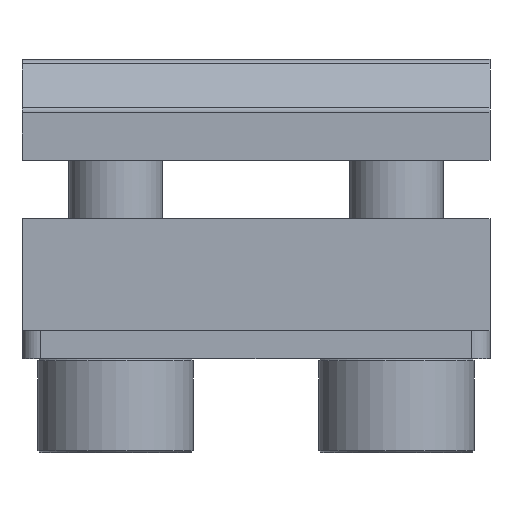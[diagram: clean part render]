
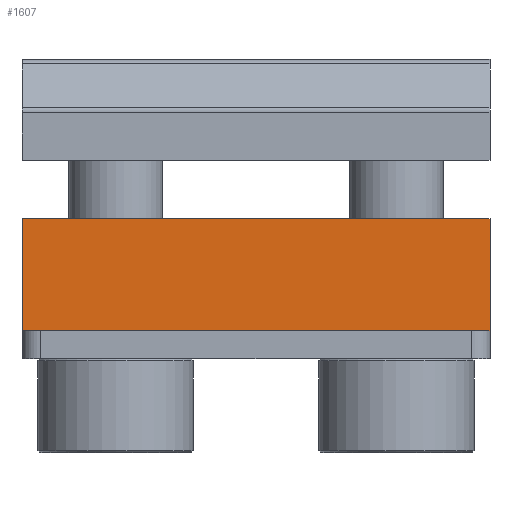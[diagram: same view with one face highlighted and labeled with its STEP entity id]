
A CAD part, front view. The second image highlights one B-rep face of the part: STEP entity #1607.
In plain terms, the highlighted planar face has unit normal (0, -1, 0).
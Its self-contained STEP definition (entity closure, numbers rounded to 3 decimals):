
#3 = EDGE_CURVE ( 'NONE', #1689, #3887, #3785, .T. ) ;
#9 = DIRECTION ( 'NONE',  ( -1., 0., 0. ) ) ;
#77 = CARTESIAN_POINT ( 'NONE',  ( 0., -52.5, 6. ) ) ;
#253 = VECTOR ( 'NONE', #9, 1000. ) ;
#264 = VECTOR ( 'NONE', #1199, 1000. ) ;
#332 = EDGE_CURVE ( 'NONE', #1689, #1692, #2485, .T. ) ;
#458 = LINE ( 'NONE', #2741, #264 ) ;
#855 = CARTESIAN_POINT ( 'NONE',  ( -12.5, -52.5, 6. ) ) ;
#863 = LINE ( 'NONE', #855, #2650 ) ;
#900 = ORIENTED_EDGE ( 'NONE', *, *, #2240, .F. ) ;
#942 = DIRECTION ( 'NONE',  ( 0., -1., 0. ) ) ;
#1159 = EDGE_LOOP ( 'NONE', ( #900, #1339, #2638, #3791 ) ) ;
#1199 = DIRECTION ( 'NONE',  ( -1., 0., 0. ) ) ;
#1250 = DIRECTION ( 'NONE',  ( 1., 0., 0. ) ) ;
#1261 = FACE_OUTER_BOUND ( 'NONE', #1159, .T. ) ;
#1339 = ORIENTED_EDGE ( 'NONE', *, *, #332, .F. ) ;
#1449 = CARTESIAN_POINT ( 'NONE',  ( 12.5, -52.5, 6. ) ) ;
#1607 = ADVANCED_FACE ( 'NONE', ( #1261 ), #2789, .T. ) ;
#1663 = AXIS2_PLACEMENT_3D ( 'NONE', #77, #942, #1250 ) ;
#1674 = VECTOR ( 'NONE', #3604, 1000. ) ;
#1689 = VERTEX_POINT ( 'NONE', #3350 ) ;
#1692 = VERTEX_POINT ( 'NONE', #3372 ) ;
#2194 = EDGE_CURVE ( 'NONE', #3887, #3468, #863, .T. ) ;
#2240 = EDGE_CURVE ( 'NONE', #1692, #3468, #458, .T. ) ;
#2446 = CARTESIAN_POINT ( 'NONE',  ( 0., -52.5, 6. ) ) ;
#2485 = LINE ( 'NONE', #1449, #1674 ) ;
#2638 = ORIENTED_EDGE ( 'NONE', *, *, #3, .T. ) ;
#2650 = VECTOR ( 'NONE', #3333, 1000. ) ;
#2741 = CARTESIAN_POINT ( 'NONE',  ( 0., -52.5, 0. ) ) ;
#2789 = PLANE ( 'NONE',  #1663 ) ;
#3101 = CARTESIAN_POINT ( 'NONE',  ( -12.5, -52.5, 6. ) ) ;
#3333 = DIRECTION ( 'NONE',  ( 0., 0., -1. ) ) ;
#3350 = CARTESIAN_POINT ( 'NONE',  ( 12.5, -52.5, 6. ) ) ;
#3372 = CARTESIAN_POINT ( 'NONE',  ( 12.5, -52.5, 0. ) ) ;
#3468 = VERTEX_POINT ( 'NONE', #3539 ) ;
#3539 = CARTESIAN_POINT ( 'NONE',  ( -12.5, -52.5, 0. ) ) ;
#3604 = DIRECTION ( 'NONE',  ( 0., 0., -1. ) ) ;
#3785 = LINE ( 'NONE', #2446, #253 ) ;
#3791 = ORIENTED_EDGE ( 'NONE', *, *, #2194, .T. ) ;
#3887 = VERTEX_POINT ( 'NONE', #3101 ) ;
